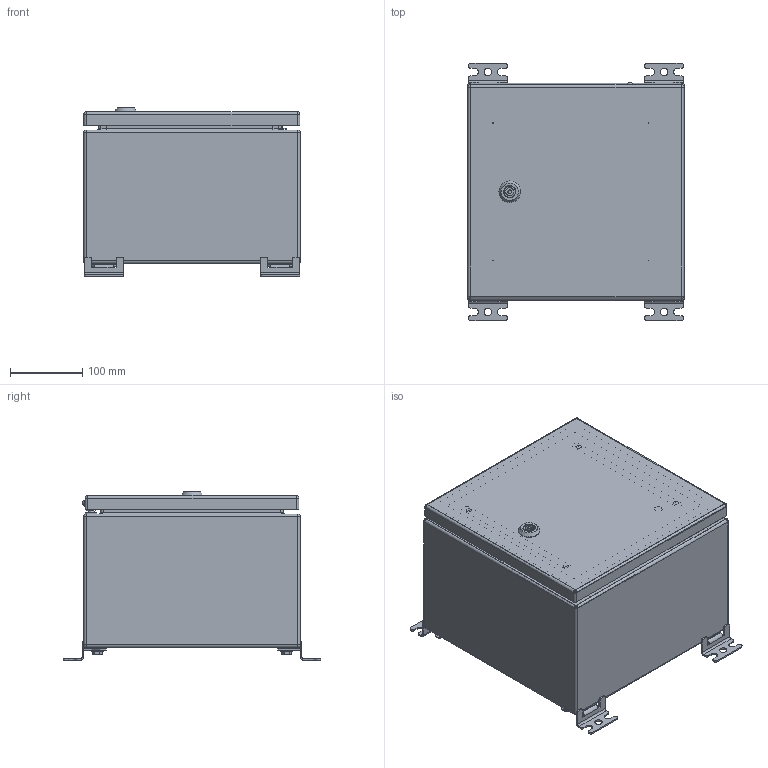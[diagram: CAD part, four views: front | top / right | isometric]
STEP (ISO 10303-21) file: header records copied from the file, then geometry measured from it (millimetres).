
FILE_DESCRIPTION(('STEP AP242'), '1');
FILE_NAME('400 ﾙﾌﾏ-1 (IP-56)', '', ('UNSPECIFIED'), ('UNSPECIFIED'), 'C3D Converter', 'C3D Toolkit', '');
FILE_SCHEMA(('AP242_MANAGED_MODEL_BASED_3D_ENGINEERING_MIM_LF { 1 0 10303 442 1 1 4 }'));
Length unit declared in the file: millimetre
Products named in the file (47): ЩМП-1-Ф СБ; 410-Ф; 420; 421; 411-Ф; 412; 490; 491; 401.01; 440-Ф; 441-Ф; 402; 450; 451; ЦИУЛ.210677.00.03-03; 452
Assembly tree (98 placements, depth 4):
  ЩМП-1-Ф СБ
    410-Ф
      420
        421
        (unnamed)  x4
        (unnamed)
      411-Ф
      412
    490  x2
      491
      (unnamed)
      (unnamed)
      (unnamed)
      (unnamed)
      (unnamed)
    490  x2
      491
      (unnamed)
      (unnamed)
      (unnamed)
      (unnamed)
      (unnamed)
    401.01
    (unnamed)  x4
    (unnamed)  x4
    (unnamed)  x4
    (unnamed)  x4
    (unnamed)  x2
      (unnamed)
      (unnamed)
      (unnamed)
    (unnamed)  x4
    440-Ф
      441-Ф
      (unnamed)
      (unnamed)  x4
      (unnamed)  x2
    402  x2
    (unnamed)  x4
    (unnamed)  x4
    (unnamed)
      (unnamed)
      (unnamed)
      (unnamed)
      (unnamed)
      (unnamed)
    (unnamed)
    450
      451
      (unnamed)  x3
      (unnamed)  x2
      (unnamed)  x2
      (unnamed)  x3
      ЦИУЛ.210677.00.03-03
      452
      (unnamed)
      (unnamed)  x2
Bounding box: 300 x 356 x 233.1 mm (x, y, z)
Volume: 1030353.8 mm3; surface area: 1233361.9 mm2
Topology: 106 solids, 106 shells, 2011 faces, 4740 edges, 2977 vertices
Faces by surface type: plane 1157, cylinder 543, cone 204, sphere 31, torus 29, extrusion 27, bspline 20
Full cylindrical faces by diameter (mm): 0.5 x4, 2.6 x4, 3.3 x1, 3.5 x28, 4 x1, 4.134 x3, 4.2 x5, 4.917 x4, 5 x8, 5.3 x2, 5.5 x11, 5.75 x3, 5.8 x1, 6 x17, 6.4 x4, 6.647 x8, 7 x6, 7.3 x4, 7.4 x1, 7.5 x6, 8 x14, 8.376 x4, 8.4 x8, 8.5 x19, 9 x12, 10 x10, 10.4 x1, 10.5 x5, 11 x4, 11.4 x1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
Entity records: 68165 total; most frequent: CARTESIAN_POINT 36074, DIRECTION 5252, ORIENTED_EDGE 5140, EDGE_CURVE 2570, AXIS2_PLACEMENT_3D 1889, VERTEX_POINT 1712, VECTOR 1474, LINE 1447
